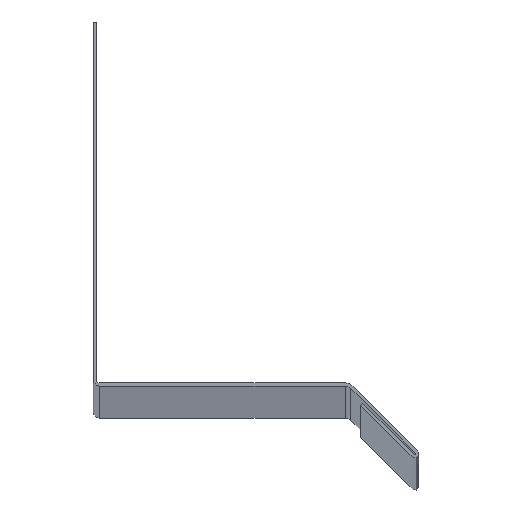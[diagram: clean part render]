
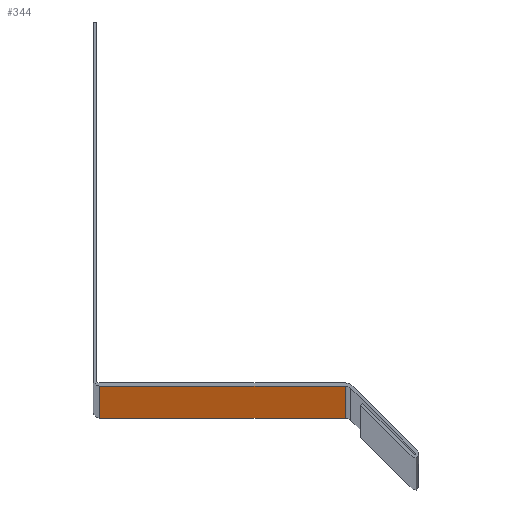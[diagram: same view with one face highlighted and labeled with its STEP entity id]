
A CAD part, top view. The second image highlights one B-rep face of the part: STEP entity #344.
In plain terms, the highlighted planar face has unit normal (0, -1, 0).
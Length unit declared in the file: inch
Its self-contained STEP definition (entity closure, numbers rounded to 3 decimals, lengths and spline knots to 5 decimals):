
#24=PLANE('',#396);
#42=FACE_OUTER_BOUND('',#60,.T.);
#60=EDGE_LOOP('',(#287,#288,#289,#290));
#63=LINE('',#503,#99);
#96=LINE('',#590,#132);
#97=LINE('',#592,#133);
#98=LINE('',#593,#134);
#99=VECTOR('',#405,0.3937);
#132=VECTOR('',#488,0.3937);
#133=VECTOR('',#491,0.3937);
#134=VECTOR('',#492,0.3937);
#147=VERTEX_POINT('',#499);
#149=VERTEX_POINT('',#502);
#177=VERTEX_POINT('',#586);
#178=VERTEX_POINT('',#588);
#180=EDGE_CURVE('',#147,#149,#63,.T.);
#224=EDGE_CURVE('',#177,#178,#96,.T.);
#225=EDGE_CURVE('',#177,#147,#97,.T.);
#226=EDGE_CURVE('',#149,#178,#98,.T.);
#287=ORIENTED_EDGE('',*,*,#225,.F.);
#288=ORIENTED_EDGE('',*,*,#224,.T.);
#289=ORIENTED_EDGE('',*,*,#226,.F.);
#290=ORIENTED_EDGE('',*,*,#180,.F.);
#344=ADVANCED_FACE('',(#42),#24,.T.);
#396=AXIS2_PLACEMENT_3D('',#591,#489,#490);
#405=DIRECTION('',(0.,0.,-1.));
#488=DIRECTION('',(0.,0.,-1.));
#489=DIRECTION('center_axis',(0.,-1.,0.));
#490=DIRECTION('ref_axis',(-1.,0.,0.));
#491=DIRECTION('',(1.,0.,0.));
#492=DIRECTION('',(-1.,0.,0.));
#499=CARTESIAN_POINT('',(0.54739,-1.19392,0.));
#502=CARTESIAN_POINT('',(0.54739,-1.19392,-120.));
#503=CARTESIAN_POINT('',(0.54739,-1.19392,0.));
#586=CARTESIAN_POINT('',(-1.05461,-1.19392,0.));
#588=CARTESIAN_POINT('',(-1.05461,-1.19392,-120.));
#590=CARTESIAN_POINT('',(-1.05461,-1.19392,0.));
#591=CARTESIAN_POINT('Origin',(0.54739,-1.19392,0.));
#592=CARTESIAN_POINT('',(-1.05461,-1.19392,0.));
#593=CARTESIAN_POINT('',(-1.05461,-1.19392,-120.));
